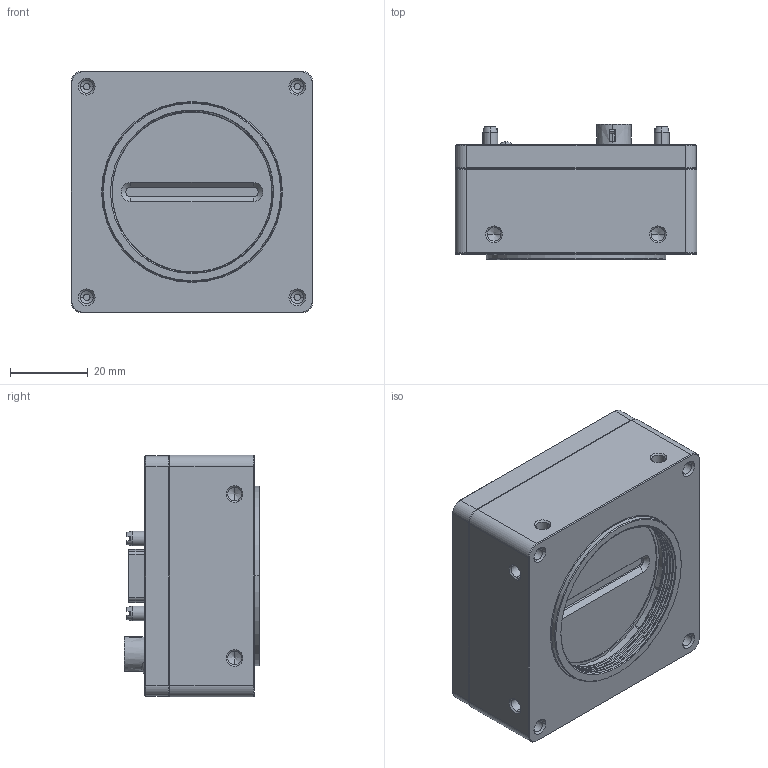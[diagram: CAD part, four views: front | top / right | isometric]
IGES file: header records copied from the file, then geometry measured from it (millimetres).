
Start section:  PTC IGES file: asm0007_sw0001.igs
Global section: file name: asm0007_sw0001.igs; native system: Creo Parametric by PTC Inc.; preprocessor: 2020184; author: 303992; organization: Unknown; date: 20240507.160213; units: millimetre
Bounding box: 62 x 34.85 x 62 mm (x, y, z)
Volume: 99416.1 mm3; surface area: 18974.9 mm2
Topology: 1 solids, 1 shells, 853 faces, 2322 edges, 1495 vertices
Faces by surface type: bspline 440, revolution 413
